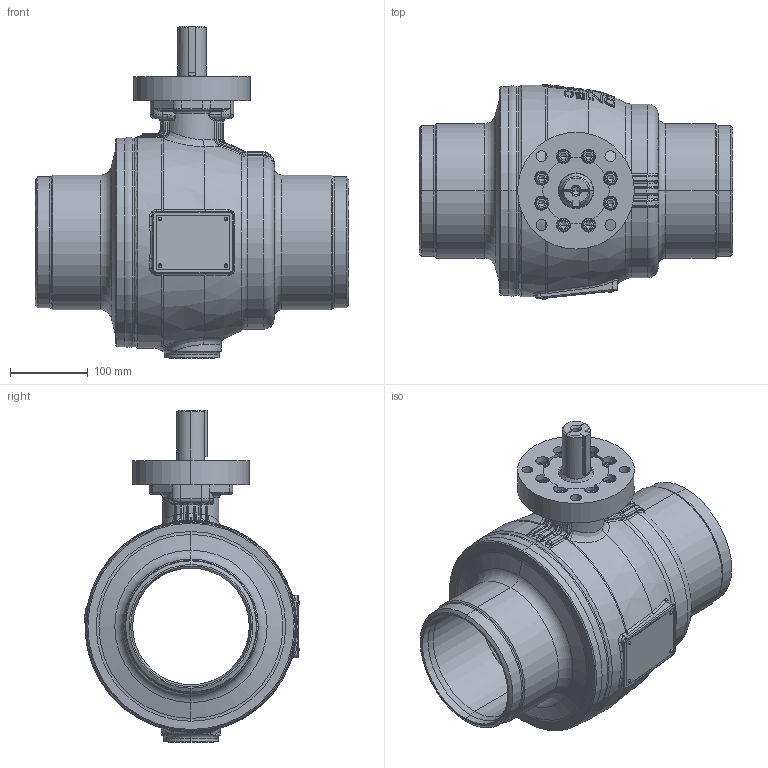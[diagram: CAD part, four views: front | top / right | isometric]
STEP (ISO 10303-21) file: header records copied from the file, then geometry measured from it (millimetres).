
FILE_DESCRIPTION((''),'2;1');
FILE_NAME('KHSVI_150_VVS-FG_FR_WE_F12','2026-01-27T14:08:26',('schwaba'),('KLINGER'),'CREO PARAMETRIC BY PTC INC, 2023014','CREO PARAMETRIC BY PTC INC, 2023014','');
FILE_SCHEMA(('CONFIG_CONTROL_DESIGN'));
Length unit declared in the file: millimetre
Products named in the file (1): KHSVI_150_VVS-FG_FR_WE_F12
Bounding box: 403 x 276.46 x 426.54 mm (x, y, z)
Volume: 6185223.7 mm3; surface area: 1125018.3 mm2
Topology: 1 solids, 3 shells, 1575 faces, 3926 edges, 2392 vertices
Faces by surface type: plane 622, cylinder 333, bspline 261, torus 214, cone 114, sphere 31
Entity records: 91787 total; most frequent: CARTESIAN_POINT 56475, ORIENTED_EDGE 7800, DIRECTION 6953, EDGE_CURVE 3900, AXIS2_PLACEMENT_3D 2897, VERTEX_POINT 2392, EDGE_LOOP 1682, CIRCLE 1583
